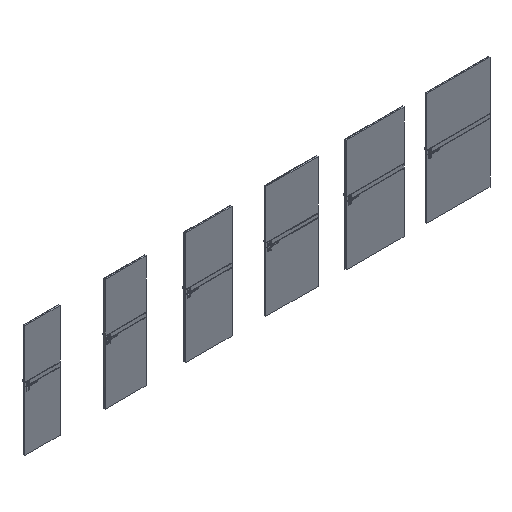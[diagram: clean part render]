
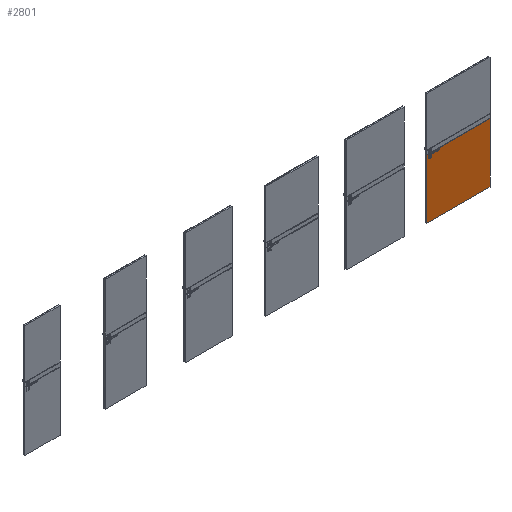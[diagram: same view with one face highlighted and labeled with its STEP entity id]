
A CAD part, isometric view. The second image highlights one B-rep face of the part: STEP entity #2801.
In plain terms, the highlighted planar face has unit normal (0, -1, 0).
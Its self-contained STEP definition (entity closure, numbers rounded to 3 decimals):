
#2801=ADVANCED_FACE('',(#4775),#3953,.F.);
#3953=PLANE('',#21654);
#4775=FACE_OUTER_BOUND('',#6047,.T.);
#6047=EDGE_LOOP('',(#8983,#8984,#8985,#8986));
#8983=ORIENTED_EDGE('',*,*,#15541,.F.);
#8984=ORIENTED_EDGE('',*,*,#15542,.T.);
#8985=ORIENTED_EDGE('',*,*,#15543,.T.);
#8986=ORIENTED_EDGE('',*,*,#15544,.T.);
#13409=VERTEX_POINT('',#32588);
#13410=VERTEX_POINT('',#32589);
#13411=VERTEX_POINT('',#32591);
#13412=VERTEX_POINT('',#32593);
#15541=EDGE_CURVE('',#13409,#13410,#18175,.T.);
#15542=EDGE_CURVE('',#13409,#13411,#18176,.T.);
#15543=EDGE_CURVE('',#13411,#13412,#18177,.T.);
#15544=EDGE_CURVE('',#13412,#13410,#18178,.T.);
#18175=LINE('',#32587,#19999);
#18176=LINE('',#32590,#20000);
#18177=LINE('',#32592,#20001);
#18178=LINE('',#32594,#20002);
#19999=VECTOR('',#24786,1.);
#20000=VECTOR('',#24787,1.);
#20001=VECTOR('',#24788,1.);
#20002=VECTOR('',#24789,1.);
#21654=AXIS2_PLACEMENT_3D('',#32595,#24790,#24791);
#24786=DIRECTION('',(0.,0.,-1.));
#24787=DIRECTION('',(-1.,0.,0.));
#24788=DIRECTION('',(0.,0.,-1.));
#24789=DIRECTION('',(1.,0.,0.));
#24790=DIRECTION('',(0.,1.,0.));
#24791=DIRECTION('',(-1.,0.,0.));
#32587=CARTESIAN_POINT('',(8069.5,-39.3,2027.));
#32588=CARTESIAN_POINT('',(8069.5,-39.3,1065.));
#32589=CARTESIAN_POINT('',(8069.5,-39.3,0.));
#32590=CARTESIAN_POINT('',(8069.5,-39.3,1065.));
#32591=CARTESIAN_POINT('',(6930.5,-39.3,1065.));
#32592=CARTESIAN_POINT('',(6930.5,-39.3,2027.));
#32593=CARTESIAN_POINT('',(6930.5,-39.3,0.));
#32594=CARTESIAN_POINT('',(7180.5,-39.3,0.));
#32595=CARTESIAN_POINT('',(7180.5,-39.3,2027.));
